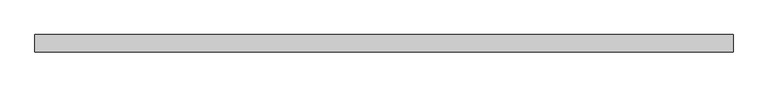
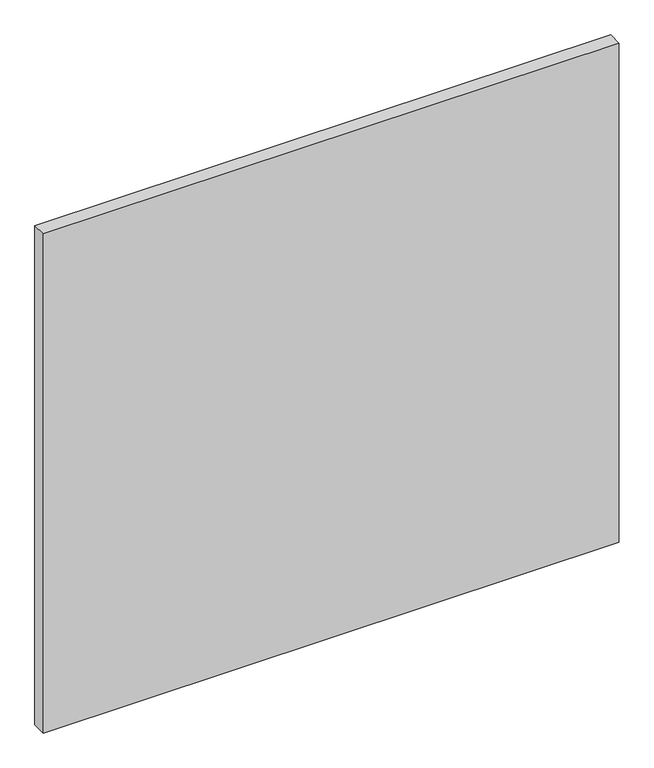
"""IFC4 building model written with IfcOpenShell, lengths in millimetres: plate geometry, Системная панель : ADSK_Cтеклопакет_25."""

from ifc_helpers import new_model, si_unit, origin, origin_with_axes, place, context, project, spatial, polyline, outline, extrude, source, transform, mapped, element, save


def plate_bcf0b63e(model_context):
    return source(origin(), model_context, "Body", "SweptSolid", [
        extrude(outline(polyline([(505.0, -12.5), (-505.0, -12.5), (-505.0, 12.5), (505.0, 12.5), (505.0, -12.5)])), origin_with_axes(), (0.0, 0.0, 1.0), 925.0),
    ])


if __name__ == "__main__":
    model = new_model("IFC4")
    model_context = context("Model", 3, world=origin())
    ifc_project = project(units=[si_unit("LENGTHUNIT", "METRE", prefix="MILLI")], contexts=[model_context])
    site = spatial("IfcSite", under=ifc_project)
    building = spatial("IfcBuilding", under=site)
    placement = place(None, origin())
    plate_shape = plate_bcf0b63e(model_context)
    element("IfcPlate", 1, ObjectType="Системная панель : ADSK_Cтеклопакет_25", at=placement, inside=building, context=model_context, shape_type="MappedRepresentation", body=[
        mapped(plate_shape, transform((0.0, 0.0, 0.0), x_axis=(1.0, 0.0, 0.0), y_axis=(0.0, 1.0, 0.0), z_axis=(0.0, 0.0, 1.0))),
    ])
    save(model, "model.ifc")
